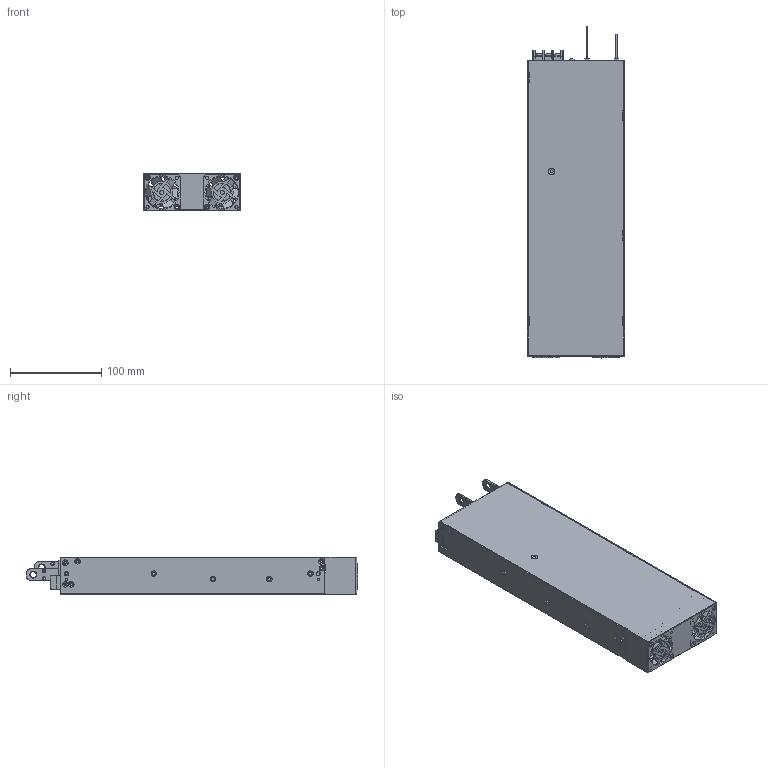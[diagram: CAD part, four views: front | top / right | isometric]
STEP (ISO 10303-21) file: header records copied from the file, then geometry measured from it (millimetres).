
FILE_DESCRIPTION((''),'2;1');
FILE_NAME('NSP-3200_0417_ASM','2026-08-20T',('Vincent.Kao'),(''),'CREO PARAMETRIC BY PTC INC, 2016260','CREO PARAMETRIC BY PTC INC, 2016260','');
FILE_SCHEMA(('AUTOMOTIVE_DESIGN { 1 0 10303 214 1 1 1 1 }'));
Length unit declared in the file: millimetre
Products named in the file (42): _X2_5F8C84CB_X0__1; _X2_56FA5B9A9435_X0__1_1; _X2_55AE6A5F4E0A84CB_X0__1; FFFF_1_1_1; V_1; TR-4RL_1; TR-4RL_STP_ASM_1_ASM; MOS_ASM_1_ASM; SS_1; MHL-24_1; MHL-24_STP_ASM_1_ASM; A1-257120_1; A1_3_1; HS_1; 952_1_ASM_1_ASM; _S_JU_S____1; _X2_628A624B_X0_B_1; A1-256120_ASM_1_ASM; A1-270450_ASM_1_ASM; C-C_1; C-B_1; A2-255560_ASM_1_ASM; A2_1_1; _X2_55AE6A5F_X0__1_1_1_1_ASM_1_ASM; A5_ASM_1_ASM; _X2_55AE6A5F98A8624784CB_X0__2_; A4_1_ASM_1_ASM; GG_2_1_1_1_1; _X2_6B638F3851FA_X0__2_1; _X2_8CA08F3851FA_X0__1_1; A2-154920_ASM_1_ASM; 26D77668-81B1-466B-87E3-FC1E3B3; SS_1_1; DDDD_1; A1_1_ASM_1_ASM; CASE_1; FFF_1; VR_1_1; A1-425640_ASM_1_ASM; NSP-3200-1_ASM_1_ASM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
Assembly tree (45 placements, depth 9):
  NSP-3200_0417_ASM
    NSP-3200-1_ASM_1_ASM
      A1-425640_ASM_1_ASM
        _X2_5F8C84CB_X0__1
        _X2_56FA5B9A9435_X0__1_1  x2
        _X2_55AE6A5F4E0A84CB_X0__1
        FFFF_1_1_1
        A5_ASM_1_ASM
          _X2_55AE6A5F_X0__1_1_1_1_ASM_1_ASM
            V_1
            A1-270450_ASM_1_ASM
              MOS_ASM_1_ASM
                TR-4RL_STP_ASM_1_ASM
                  TR-4RL_1
              952_1_ASM_1_ASM
                SS_1
                MHL-24_STP_ASM_1_ASM
                  MHL-24_1
                A1-257120_1
                A1_3_1
                HS_1
              _S_JU_S____1
              A1-256120_ASM_1_ASM
                _X2_628A624B_X0_B_1
            A2-255560_ASM_1_ASM
              C-C_1
              C-B_1
            A2_1_1
        A4_1_ASM_1_ASM  x2
          _X2_55AE6A5F98A8624784CB_X0__2_
        A2-154920_ASM_1_ASM
          GG_2_1_1_1_1  x2
          _X2_6B638F3851FA_X0__2_1
          _X2_8CA08F3851FA_X0__1_1
        A1_1_ASM_1_ASM
          26D77668-81B1-466B-87E3-FC1E3B3  x2
          SS_1_1
          DDDD_1
        CASE_1
        FFF_1
        VR_1_1
    CONN_0820
Bounding box: 106.9 x 363.7 x 41 mm (x, y, z)
Volume: 211868.1 mm3; surface area: 329940.3 mm2
Topology: 20 solids, 20 shells, 1972 faces, 5483 edges, 3553 vertices
Faces by surface type: plane 983, cylinder 723, cone 120, torus 108, sphere 24, bspline 14
Entity records: 62964 total; most frequent: CARTESIAN_POINT 8997, DIRECTION 8629, ORIENTED_EDGE 8092, PRESENTATION_STYLE_ASSIGNMENT 4179, STYLED_ITEM 4062, CURVE_STYLE 4046, EDGE_CURVE 4046, AXIS2_PLACEMENT_3D 3054
